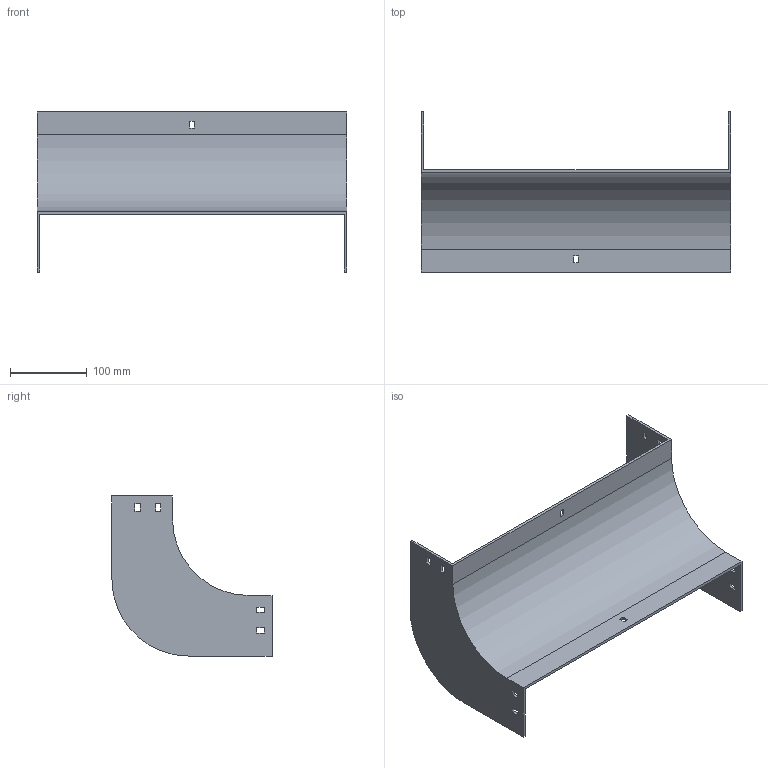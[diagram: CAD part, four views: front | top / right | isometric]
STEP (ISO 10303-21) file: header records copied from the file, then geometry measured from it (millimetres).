
FILE_DESCRIPTION (( 'STEP AP214' ), '1' );
FILE_NAME ('33F1C400.step', '2025-02-21T12:53:15', ( '' ), ( '' ), 'SwSTEP 2.0', 'SolidWorks 2023', '' );
FILE_SCHEMA (( 'AUTOMOTIVE_DESIGN' ));
Length unit declared in the file: millimetre
Products named in the file (1): 33F1C400
Bounding box: 404 x 209 x 209 mm (x, y, z)
Volume: 490549.2 mm3; surface area: 287974.2 mm2
Topology: 1 solids, 1 shells, 58 faces, 168 edges, 112 vertices
Faces by surface type: plane 54, cylinder 4
Entity records: 1943 total; most frequent: CARTESIAN_POINT 339, ORIENTED_EDGE 336, DIRECTION 294, EDGE_CURVE 168, VECTOR 160, LINE 160, VERTEX_POINT 112, EDGE_LOOP 78
